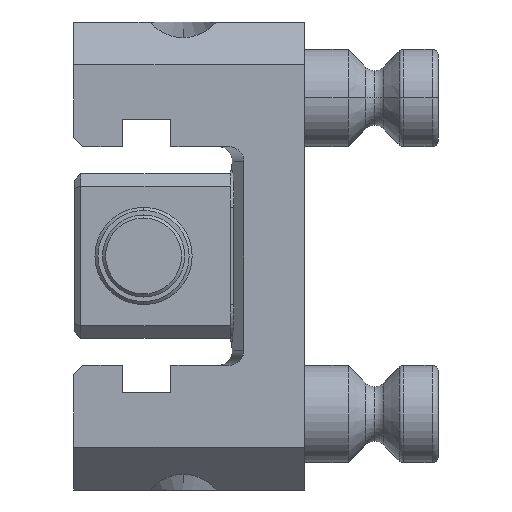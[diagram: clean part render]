
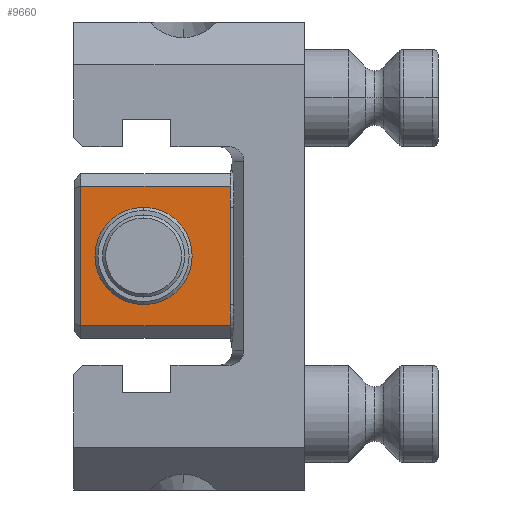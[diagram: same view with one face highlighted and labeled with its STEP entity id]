
A CAD part, left-side view. The second image highlights one B-rep face of the part: STEP entity #9660.
In plain terms, the highlighted planar face has unit normal (-1, 0, 0).
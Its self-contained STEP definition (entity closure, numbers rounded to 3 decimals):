
#432 = VERTEX_POINT ( 'NONE', #9674 ) ;
#961 = DIRECTION ( 'NONE',  ( 0., 0., -1. ) ) ;
#1647 = FACE_BOUND ( 'NONE', #13092, .T. ) ;
#1702 = VECTOR ( 'NONE', #4574, 1000. ) ;
#1942 = VERTEX_POINT ( 'NONE', #2195 ) ;
#2033 = EDGE_CURVE ( 'NONE', #7220, #2956, #9626, .T. ) ;
#2063 = ORIENTED_EDGE ( 'NONE', *, *, #2239, .T. ) ;
#2184 = EDGE_LOOP ( 'NONE', ( #6564, #5859, #2063, #2468 ) ) ;
#2195 = CARTESIAN_POINT ( 'NONE',  ( -7.5, 12.2, -11.5 ) ) ;
#2239 = EDGE_CURVE ( 'NONE', #6560, #1942, #3850, .T. ) ;
#2408 = EDGE_CURVE ( 'NONE', #2956, #7220, #12150, .T. ) ;
#2468 = ORIENTED_EDGE ( 'NONE', *, *, #4346, .F. ) ;
#2956 = VERTEX_POINT ( 'NONE', #6669 ) ;
#3850 = LINE ( 'NONE', #9033, #13972 ) ;
#4136 = AXIS2_PLACEMENT_3D ( 'NONE', #5130, #11664, #6319 ) ;
#4140 = DIRECTION ( 'NONE',  ( 0., 0., 1. ) ) ;
#4346 = EDGE_CURVE ( 'NONE', #6231, #1942, #5239, .T. ) ;
#4574 = DIRECTION ( 'NONE',  ( 0., 0., -1. ) ) ;
#4791 = FACE_OUTER_BOUND ( 'NONE', #2184, .T. ) ;
#4821 = DIRECTION ( 'NONE',  ( 0., 0., 1. ) ) ;
#4980 = DIRECTION ( 'NONE',  ( 0., 1., 0. ) ) ;
#5130 = CARTESIAN_POINT ( 'NONE',  ( -7.5, 37.85, 13.5 ) ) ;
#5169 = VECTOR ( 'NONE', #961, 1000. ) ;
#5239 = LINE ( 'NONE', #10638, #5169 ) ;
#5757 = LINE ( 'NONE', #10088, #13003 ) ;
#5859 = ORIENTED_EDGE ( 'NONE', *, *, #8188, .T. ) ;
#6180 = DIRECTION ( 'NONE',  ( 1., 0., 0. ) ) ;
#6231 = VERTEX_POINT ( 'NONE', #8982 ) ;
#6319 = DIRECTION ( 'NONE',  ( 0., 0., 1. ) ) ;
#6331 = ORIENTED_EDGE ( 'NONE', *, *, #2033, .T. ) ;
#6560 = VERTEX_POINT ( 'NONE', #7834 ) ;
#6564 = ORIENTED_EDGE ( 'NONE', *, *, #11217, .T. ) ;
#6669 = CARTESIAN_POINT ( 'NONE',  ( -7.5, 26.5, 8. ) ) ;
#7220 = VERTEX_POINT ( 'NONE', #9281 ) ;
#7834 = CARTESIAN_POINT ( 'NONE',  ( -7.5, 36.85, -11.5 ) ) ;
#7857 = DIRECTION ( 'NONE',  ( 1., 0., 0. ) ) ;
#8188 = EDGE_CURVE ( 'NONE', #432, #6560, #11354, .T. ) ;
#8982 = CARTESIAN_POINT ( 'NONE',  ( -7.5, 12.2, 11.5 ) ) ;
#9033 = CARTESIAN_POINT ( 'NONE',  ( -7.5, 12.2, -11.5 ) ) ;
#9066 = CARTESIAN_POINT ( 'NONE',  ( -7.5, 26.5, 0. ) ) ;
#9281 = CARTESIAN_POINT ( 'NONE',  ( -7.5, 26.5, -8. ) ) ;
#9626 = CIRCLE ( 'NONE', #11211, 8. ) ;
#9660 = ADVANCED_FACE ( 'NONE', ( #1647, #4791 ), #10243, .T. ) ;
#9674 = CARTESIAN_POINT ( 'NONE',  ( -7.5, 36.85, 11.5 ) ) ;
#10088 = CARTESIAN_POINT ( 'NONE',  ( -7.5, 37.85, 11.5 ) ) ;
#10243 = PLANE ( 'NONE',  #4136 ) ;
#10279 = ORIENTED_EDGE ( 'NONE', *, *, #2408, .T. ) ;
#10297 = CARTESIAN_POINT ( 'NONE',  ( -7.5, 36.85, -11.5 ) ) ;
#10638 = CARTESIAN_POINT ( 'NONE',  ( -7.5, 12.2, -13.5 ) ) ;
#11211 = AXIS2_PLACEMENT_3D ( 'NONE', #13959, #6180, #4140 ) ;
#11217 = EDGE_CURVE ( 'NONE', #6231, #432, #5757, .T. ) ;
#11354 = LINE ( 'NONE', #10297, #1702 ) ;
#11664 = DIRECTION ( 'NONE',  ( -1., 0., 0. ) ) ;
#12150 = CIRCLE ( 'NONE', #13992, 8. ) ;
#12561 = DIRECTION ( 'NONE',  ( 0., -1., 0. ) ) ;
#13003 = VECTOR ( 'NONE', #4980, 1000. ) ;
#13092 = EDGE_LOOP ( 'NONE', ( #10279, #6331 ) ) ;
#13959 = CARTESIAN_POINT ( 'NONE',  ( -7.5, 26.5, 0. ) ) ;
#13972 = VECTOR ( 'NONE', #12561, 1000. ) ;
#13992 = AXIS2_PLACEMENT_3D ( 'NONE', #9066, #7857, #4821 ) ;
